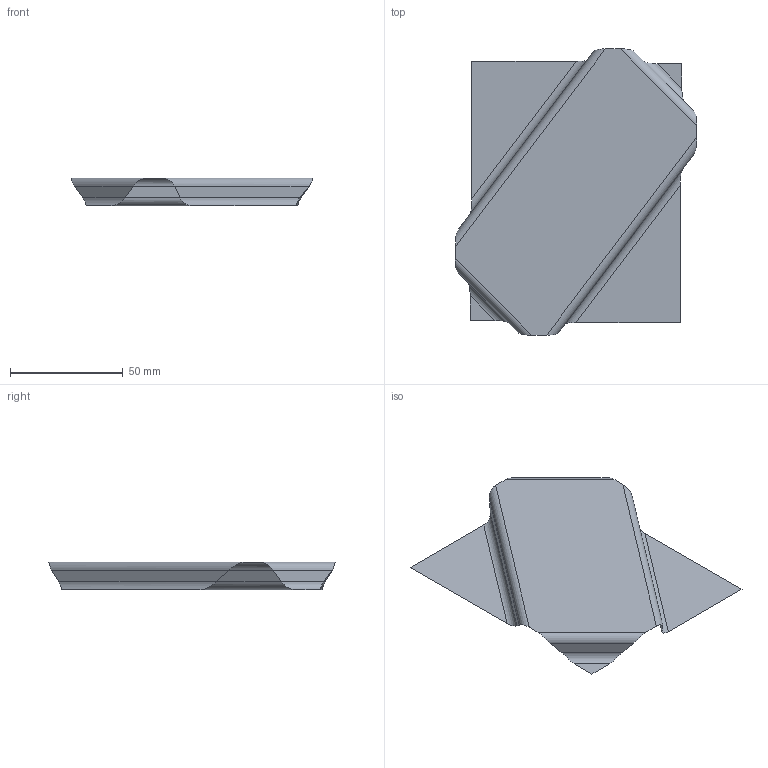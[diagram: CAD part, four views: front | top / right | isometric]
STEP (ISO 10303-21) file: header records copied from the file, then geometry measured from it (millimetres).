
FILE_DESCRIPTION(('CATIA V5 STEP Exchange'),'2;1');
FILE_NAME('C:\_Andres\UNIVERSIDAD\IQS\ASIGNATURAS\DAO\EXF\EXF-15161c\1original\Pañella_Caminero_Ej03-chapa_v17.stp','2016-03-04T16:56:01+00:00',('none'),('none'),'CATIA Version 5 Release 20 SP 1 (IN-10)','CATIA V5 STEP AP203','none');
FILE_SCHEMA(('CONFIG_CONTROL_DESIGN'));
Length unit declared in the file: millimetre
Products named in the file (1): Pañella_Caminero_Ej03-chapa_v17
Bounding box: 107.01 x 127.01 x 12.29 mm (x, y, z)
Surface area: 13632.6 mm2 (no closed solid volume)
Topology: 0 solids, 1 shells, 17 faces, 52 edges, 36 vertices
Faces by surface type: plane 9, cylinder 8
Entity records: 622 total; most frequent: CARTESIAN_POINT 203, ORIENTED_EDGE 68, DIRECTION 56, EDGE_CURVE 52, VERTEX_POINT 36, B_SPLINE_CURVE_WITH_KNOTS 32, VECTOR 20, LINE 20
